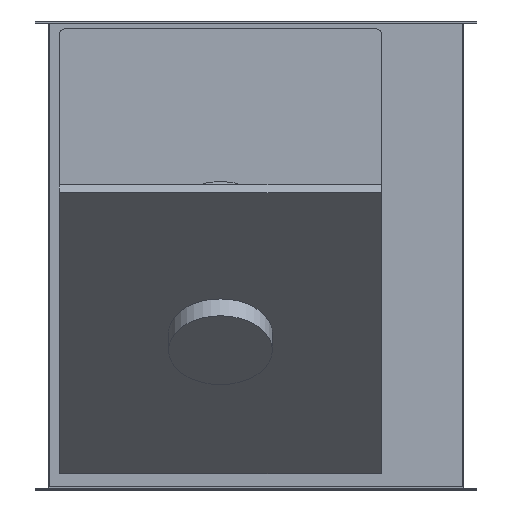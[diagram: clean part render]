
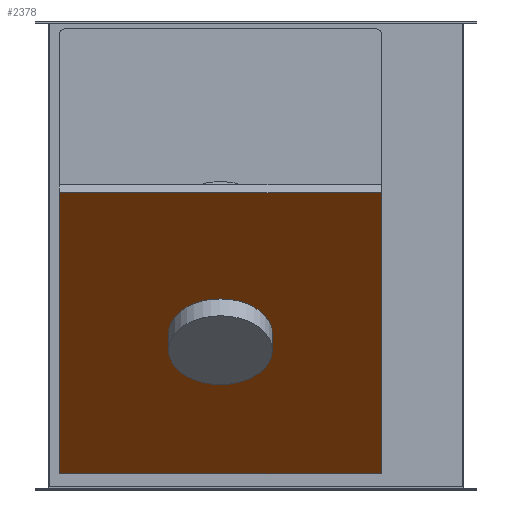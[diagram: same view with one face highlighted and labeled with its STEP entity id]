
A CAD part, top view. The second image highlights one B-rep face of the part: STEP entity #2378.
In plain terms, the highlighted planar face has unit normal (0, -0.751, 0.66).
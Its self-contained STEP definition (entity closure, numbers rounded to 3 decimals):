
#327=LINE('',#4256,#530);
#330=LINE('',#4261,#533);
#332=LINE('',#4265,#535);
#336=LINE('',#4271,#539);
#530=VECTOR('',#3032,10.);
#533=VECTOR('',#3037,10.);
#535=VECTOR('',#3041,10.);
#539=VECTOR('',#3047,10.);
#649=PLANE('',#2562);
#711=FACE_BOUND('',#982,.T.);
#834=FACE_OUTER_BOUND('',#981,.T.);
#981=EDGE_LOOP('',(#2101,#2102,#2103,#2104));
#982=EDGE_LOOP('',(#2105));
#1058=CIRCLE('',#2449,87.5);
#1173=VERTEX_POINT('',#3320);
#1280=VERTEX_POINT('',#4253);
#1281=VERTEX_POINT('',#4255);
#1282=VERTEX_POINT('',#4260);
#1283=VERTEX_POINT('',#4264);
#1380=EDGE_CURVE('',#1173,#1173,#1058,.T.);
#1566=EDGE_CURVE('',#1281,#1280,#327,.T.);
#1569=EDGE_CURVE('',#1282,#1281,#330,.T.);
#1571=EDGE_CURVE('',#1283,#1282,#332,.T.);
#1575=EDGE_CURVE('',#1280,#1283,#336,.T.);
#2101=ORIENTED_EDGE('',*,*,#1575,.T.);
#2102=ORIENTED_EDGE('',*,*,#1571,.T.);
#2103=ORIENTED_EDGE('',*,*,#1569,.T.);
#2104=ORIENTED_EDGE('',*,*,#1566,.T.);
#2105=ORIENTED_EDGE('',*,*,#1380,.T.);
#2378=ADVANCED_FACE('',(#834,#711),#649,.T.);
#2449=AXIS2_PLACEMENT_3D('',#3321,#2712,#2713);
#2562=AXIS2_PLACEMENT_3D('',#4274,#3051,#3052);
#2712=DIRECTION('center_axis',(0.,0.751,-0.66));
#2713=DIRECTION('ref_axis',(-1.,0.,0.));
#3032=DIRECTION('',(0.,-0.66,-0.751));
#3037=DIRECTION('',(-1.,0.,0.));
#3041=DIRECTION('',(0.,0.66,0.751));
#3047=DIRECTION('',(1.,0.,0.));
#3051=DIRECTION('center_axis',(0.,-0.751,0.66));
#3052=DIRECTION('ref_axis',(1.,0.,0.));
#3320=CARTESIAN_POINT('',(27.5,-130.927,479.247));
#3321=CARTESIAN_POINT('Origin',(-60.,-130.927,479.247));
#4253=CARTESIAN_POINT('',(-331.,-367.321,210.393));
#4255=CARTESIAN_POINT('',(-331.,105.466,748.1));
#4256=CARTESIAN_POINT('',(-331.,-367.321,210.393));
#4260=CARTESIAN_POINT('',(211.,105.466,748.1));
#4261=CARTESIAN_POINT('',(-331.,105.466,748.1));
#4264=CARTESIAN_POINT('',(211.,-367.321,210.393));
#4265=CARTESIAN_POINT('',(211.,105.466,748.1));
#4271=CARTESIAN_POINT('',(211.,-367.321,210.393));
#4274=CARTESIAN_POINT('Origin',(-60.,-130.927,479.247));
